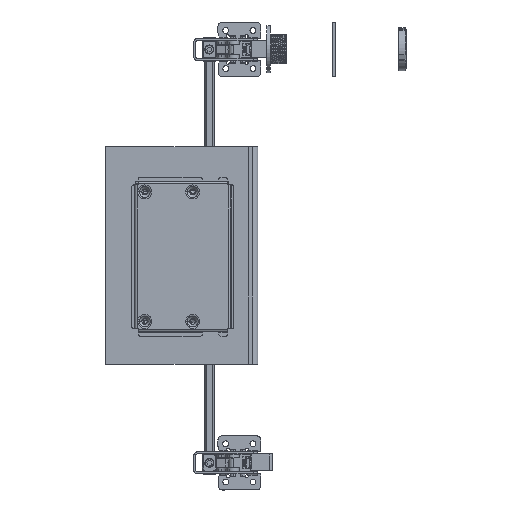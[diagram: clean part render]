
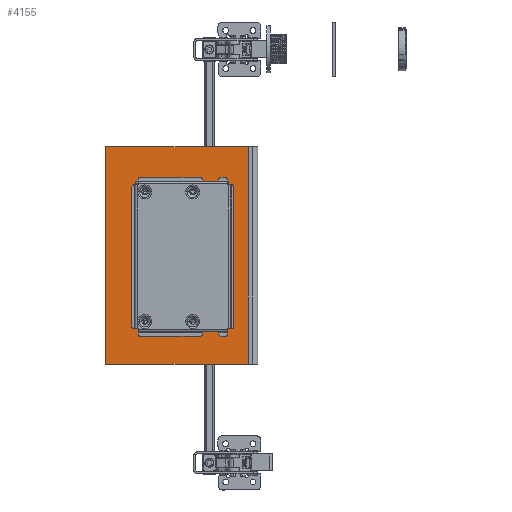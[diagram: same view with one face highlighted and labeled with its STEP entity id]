
A CAD part, top view. The second image highlights one B-rep face of the part: STEP entity #4155.
In plain terms, the highlighted planar face has unit normal (0, 0, 1).
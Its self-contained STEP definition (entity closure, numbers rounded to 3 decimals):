
#226 = EDGE_CURVE ( 'NONE', #20110, #29506, #21510, .T. ) ;
#265 = ORIENTED_EDGE ( 'NONE', *, *, #40503, .T. ) ;
#2111 = VECTOR ( 'NONE', #8459, 1000. ) ;
#2813 = VERTEX_POINT ( 'NONE', #21239 ) ;
#3964 = LINE ( 'NONE', #47914, #44247 ) ;
#4155 = ADVANCED_FACE ( 'NONE', ( #15185, #24346 ), #20834, .T. ) ;
#4353 = ORIENTED_EDGE ( 'NONE', *, *, #20424, .F. ) ;
#5156 = CARTESIAN_POINT ( 'NONE',  ( 0., 0., 3. ) ) ;
#6097 = CARTESIAN_POINT ( 'NONE',  ( 42.5, 67.5, 3. ) ) ;
#8459 = DIRECTION ( 'NONE',  ( 0., 1., 0. ) ) ;
#8815 = VECTOR ( 'NONE', #10292, 1000. ) ;
#9245 = DIRECTION ( 'NONE',  ( 1., 0., 0. ) ) ;
#10292 = DIRECTION ( 'NONE',  ( -1., 0., 0. ) ) ;
#11236 = VERTEX_POINT ( 'NONE', #48236 ) ;
#12008 = CARTESIAN_POINT ( 'NONE',  ( -70., -100., 3. ) ) ;
#12489 = LINE ( 'NONE', #20198, #2111 ) ;
#12799 = EDGE_CURVE ( 'NONE', #11236, #20110, #3964, .T. ) ;
#13540 = CARTESIAN_POINT ( 'NONE',  ( 65., -100., 3. ) ) ;
#13982 = DIRECTION ( 'NONE',  ( 0., -1., 0. ) ) ;
#14821 = EDGE_LOOP ( 'NONE', ( #27931, #19826, #265, #39902 ) ) ;
#15185 = FACE_OUTER_BOUND ( 'NONE', #14821, .T. ) ;
#17420 = VECTOR ( 'NONE', #34817, 1000. ) ;
#19445 = VERTEX_POINT ( 'NONE', #12008 ) ;
#19649 = VERTEX_POINT ( 'NONE', #13540 ) ;
#19775 = VERTEX_POINT ( 'NONE', #29894 ) ;
#19826 = ORIENTED_EDGE ( 'NONE', *, *, #31169, .T. ) ;
#20110 = VERTEX_POINT ( 'NONE', #27671 ) ;
#20195 = ORIENTED_EDGE ( 'NONE', *, *, #12799, .F. ) ;
#20198 = CARTESIAN_POINT ( 'NONE',  ( 65., 0., 3. ) ) ;
#20424 = EDGE_CURVE ( 'NONE', #38843, #11236, #41246, .T. ) ;
#20834 = PLANE ( 'NONE',  #41781 ) ;
#21239 = CARTESIAN_POINT ( 'NONE',  ( 65., 100., 3. ) ) ;
#21510 = LINE ( 'NONE', #22665, #43497 ) ;
#22369 = LINE ( 'NONE', #40948, #31532 ) ;
#22665 = CARTESIAN_POINT ( 'NONE',  ( 42.5, 67.5, 3. ) ) ;
#24346 = FACE_BOUND ( 'NONE', #28144, .T. ) ;
#27671 = CARTESIAN_POINT ( 'NONE',  ( 42.5, -67.5, 3. ) ) ;
#27931 = ORIENTED_EDGE ( 'NONE', *, *, #38783, .T. ) ;
#28144 = EDGE_LOOP ( 'NONE', ( #36825, #33341, #20195, #4353 ) ) ;
#29506 = VERTEX_POINT ( 'NONE', #6097 ) ;
#29758 = CARTESIAN_POINT ( 'NONE',  ( -70., 100., 3. ) ) ;
#29894 = CARTESIAN_POINT ( 'NONE',  ( -70., 100., 3. ) ) ;
#30790 = LINE ( 'NONE', #29758, #8815 ) ;
#30885 = VECTOR ( 'NONE', #13982, 1000. ) ;
#31169 = EDGE_CURVE ( 'NONE', #19649, #2813, #12489, .T. ) ;
#31337 = VECTOR ( 'NONE', #35818, 1000. ) ;
#31532 = VECTOR ( 'NONE', #45057, 1000. ) ;
#31886 = CARTESIAN_POINT ( 'NONE',  ( -42.5, 67.5, 3. ) ) ;
#32558 = LINE ( 'NONE', #31886, #31337 ) ;
#32624 = DIRECTION ( 'NONE',  ( 0., 0., 1. ) ) ;
#33341 = ORIENTED_EDGE ( 'NONE', *, *, #226, .F. ) ;
#34817 = DIRECTION ( 'NONE',  ( 0., -1., 0. ) ) ;
#35818 = DIRECTION ( 'NONE',  ( -1., 0., 0. ) ) ;
#36825 = ORIENTED_EDGE ( 'NONE', *, *, #41312, .F. ) ;
#38783 = EDGE_CURVE ( 'NONE', #19445, #19649, #22369, .T. ) ;
#38843 = VERTEX_POINT ( 'NONE', #45392 ) ;
#39608 = EDGE_CURVE ( 'NONE', #19775, #19445, #48586, .T. ) ;
#39902 = ORIENTED_EDGE ( 'NONE', *, *, #39608, .T. ) ;
#40191 = DIRECTION ( 'NONE',  ( 1., 0., 0. ) ) ;
#40503 = EDGE_CURVE ( 'NONE', #2813, #19775, #30790, .T. ) ;
#40948 = CARTESIAN_POINT ( 'NONE',  ( -70., -100., 3. ) ) ;
#41246 = LINE ( 'NONE', #41248, #30885 ) ;
#41248 = CARTESIAN_POINT ( 'NONE',  ( -42.5, 67.5, 3. ) ) ;
#41312 = EDGE_CURVE ( 'NONE', #29506, #38843, #32558, .T. ) ;
#41781 = AXIS2_PLACEMENT_3D ( 'NONE', #5156, #32624, #9245 ) ;
#43497 = VECTOR ( 'NONE', #46068, 1000. ) ;
#44247 = VECTOR ( 'NONE', #40191, 1000. ) ;
#45057 = DIRECTION ( 'NONE',  ( 1., 0., 0. ) ) ;
#45392 = CARTESIAN_POINT ( 'NONE',  ( -42.5, 67.5, 3. ) ) ;
#46068 = DIRECTION ( 'NONE',  ( 0., 1., 0. ) ) ;
#47914 = CARTESIAN_POINT ( 'NONE',  ( -42.5, -67.5, 3. ) ) ;
#48236 = CARTESIAN_POINT ( 'NONE',  ( -42.5, -67.5, 3. ) ) ;
#48586 = LINE ( 'NONE', #50549, #17420 ) ;
#50549 = CARTESIAN_POINT ( 'NONE',  ( -70., 100., 3. ) ) ;
